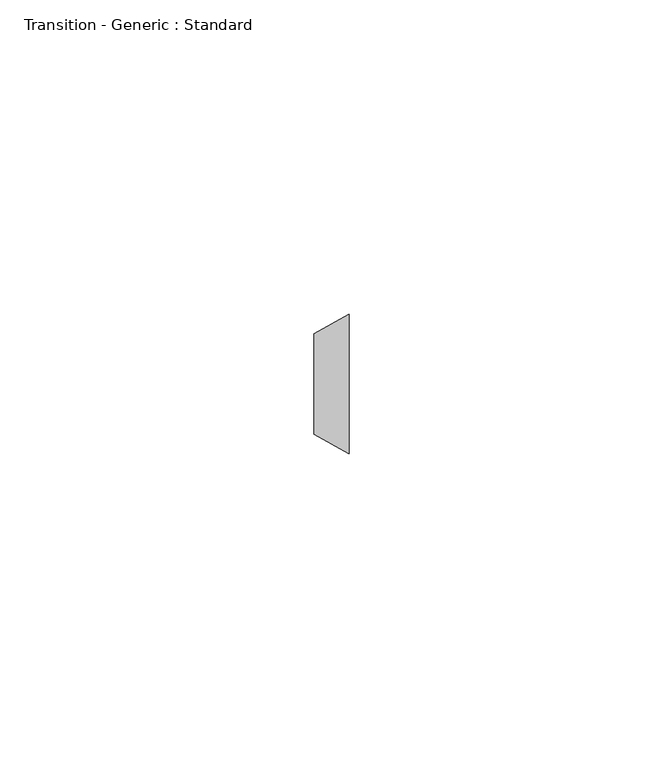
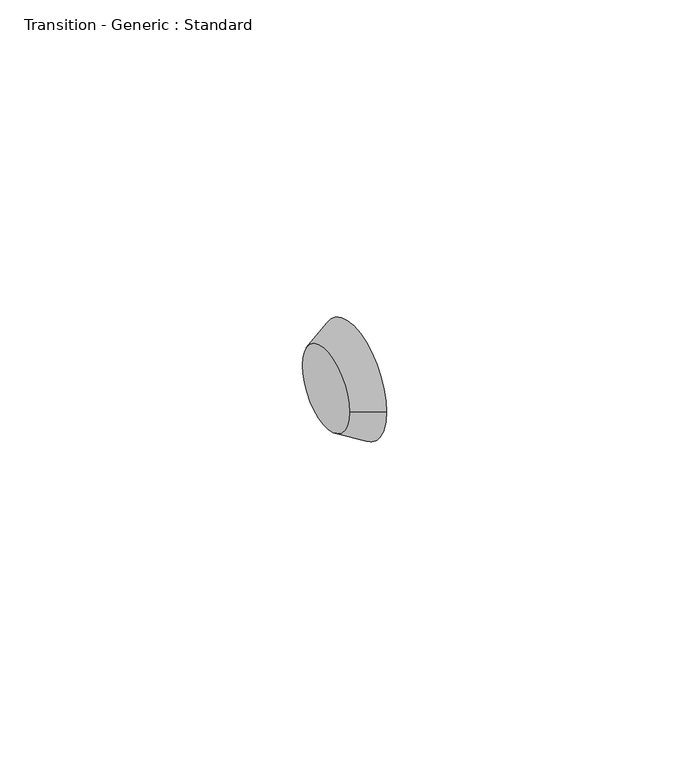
"""IFC4 building model written with IfcOpenShell, lengths in millimetres: pipe fitting geometry, Transition - Generic : Standard."""

from ifc_helpers import new_model, si_unit, frame, origin, place, context, project, spatial, polyline, circle_curve, source, transform, mapped, element, save
from ifc_brep_helpers import plane_surface, revolved_surface, advanced_brep


def transition_generic_standard_43f54093(model_context):
    return source(origin(), model_context, "Body", "AdvancedBrep", [
        advanced_brep(
        [(5.55625, -11.1125, 0.0), (5.55625, 11.1125, 0.0), (0.0, -8.0367188, 0.0), (0.0, 8.0367188, 0.0)],
        [
            (0, 1, circle_curve(frame((5.55625, 0.0, 0.0), z_axis=(1.0, 0.0, 0.0), x_axis=(0.0, -1.0, 0.0)), 11.1125)),
            (1, 0, circle_curve(frame((5.55625, 0.0, 0.0), z_axis=(1.0, 0.0, 0.0), x_axis=(0.0, 1.0, 0.0)), 11.1125)),
            (2, 3, circle_curve(frame((0.0, 0.0, 0.0), z_axis=(-1.0, 0.0, 0.0), x_axis=(0.0, 1.0, 0.0)), 8.0367188)),
            (3, 2, circle_curve(frame((0.0, 0.0, 0.0), z_axis=(-1.0, 0.0, 0.0), x_axis=(0.0, -1.0, 0.0)), 8.0367187)),
            (3, 1),
            (0, 2),
        ],
        [
            plane_surface(frame((5.55625, 0.0, 0.0), z_axis=(1.0, 0.0, 0.0), x_axis=(0.0, 0.0, -1.0))),
            plane_surface(frame((0.0, 0.0, 0.0), z_axis=(-1.0, 0.0, 0.0), x_axis=(0.0, 0.0, -1.0))),
            revolved_surface(polyline([(0.0, 8.036718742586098, 0.0), (5.55625, 11.1125, 0.0)]), (-14.5179435, 0.0, 0.0), (1.0, 0.0, 0.0)),
            revolved_surface(polyline([(0.0, -8.036718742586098, 0.0), (5.55625, -11.1125, 0.0)]), (-14.5179435, 0.0, 0.0), (1.0, 0.0, 0.0)),
        ],
        [
            (0, [[1, 2]]),
            (1, [[3, 4]]),
            (2, [[-4, 5, -1, 6]]),
            (3, [[-3, -6, -2, -5]]),
        ],
    ),
    ])


if __name__ == "__main__":
    model = new_model("IFC4")
    model_context = context("Model", 3, world=origin())
    ifc_project = project(units=[si_unit("LENGTHUNIT", "METRE", prefix="MILLI")], contexts=[model_context])
    site = spatial("IfcSite", under=ifc_project)
    building = spatial("IfcBuilding", under=site)
    placement = place(None, origin())
    transition_generic_standard_shape = transition_generic_standard_43f54093(model_context)
    element("IfcPipeFitting", 1, ObjectType="Transition - Generic : Standard", at=placement, inside=building, context=model_context, shape_type="MappedRepresentation", body=[
        mapped(transition_generic_standard_shape, transform((0.0, 0.0, 0.0), x_axis=(1.0, 0.0, 0.0), y_axis=(0.0, 1.0, 0.0), z_axis=(0.0, 0.0, 1.0))),
    ])
    save(model, "model.ifc")
